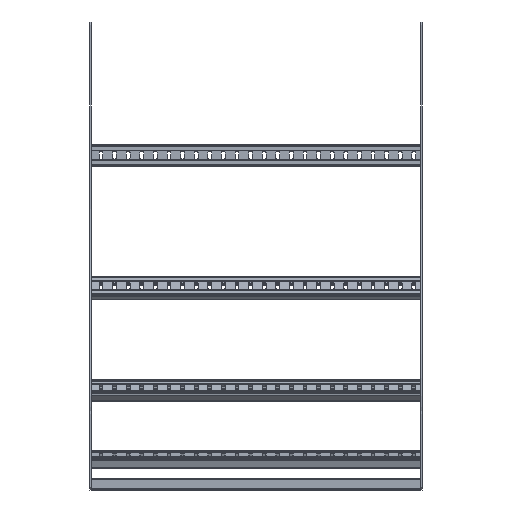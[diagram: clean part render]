
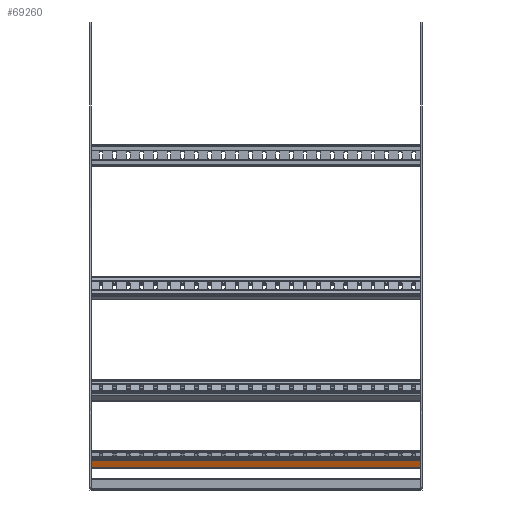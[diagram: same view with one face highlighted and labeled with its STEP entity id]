
A CAD part, front view. The second image highlights one B-rep face of the part: STEP entity #69260.
In plain terms, the highlighted planar face has unit normal (0, -0.924, -0.383) as drawn and (1, 0, 0) by its records, which use the part's own axes.
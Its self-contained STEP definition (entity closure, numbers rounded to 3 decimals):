
#27880=CARTESIAN_POINT('',(39.5,881.5,-202.5));
#27890=VERTEX_POINT('',#27880);
#27920=CARTESIAN_POINT('',(39.5,0.,-202.5));
#27930=DIRECTION('',(0.,-1.,0.));
#27940=VECTOR('',#27930,1.);
#27950=LINE('',#27920,#27940);
#27960=CARTESIAN_POINT('',(39.5,896.5,-202.5));
#27970=VERTEX_POINT('',#27960);
#27980=EDGE_CURVE('',#27970,#27890,#27950,.T.);
#30780=CARTESIAN_POINT('',(39.5,896.5,402.5));
#30790=VERTEX_POINT('',#30780);
#30820=CARTESIAN_POINT('',(39.5,0.,402.5));
#30830=DIRECTION('',(0.,1.,0.));
#30840=VECTOR('',#30830,1.);
#30850=LINE('',#30820,#30840);
#30860=CARTESIAN_POINT('',(39.5,881.5,402.5));
#30870=VERTEX_POINT('',#30860);
#30880=EDGE_CURVE('',#30870,#30790,#30850,.T.);
#69010=CARTESIAN_POINT('',(39.5,881.5,340.));
#69020=DIRECTION('',(0.,0.,1.));
#69030=VECTOR('',#69020,1.);
#69040=LINE('',#69010,#69030);
#69050=EDGE_CURVE('',#27890,#30870,#69040,.T.);
#69100=CARTESIAN_POINT('',(39.5,900.,340.));
#69110=DIRECTION('',(1.,0.,0.));
#69120=DIRECTION('',(0.,-1.,0.));
#69130=AXIS2_PLACEMENT_3D('',#69100,#69110,#69120);
#69140=PLANE('',#69130);
#69150=CARTESIAN_POINT('',(39.5,896.5,40.));
#69160=DIRECTION('',(0.,0.,1.));
#69170=VECTOR('',#69160,1.);
#69180=LINE('',#69150,#69170);
#69190=EDGE_CURVE('',#27970,#30790,#69180,.T.);
#69200=ORIENTED_EDGE('',*,*,#69190,.T.);
#69210=ORIENTED_EDGE('',*,*,#27980,.F.);
#69220=ORIENTED_EDGE('',*,*,#69050,.F.);
#69230=ORIENTED_EDGE('',*,*,#30880,.F.);
#69240=EDGE_LOOP('',(#69230,#69220,#69210,#69200));
#69250=FACE_OUTER_BOUND('',#69240,.T.);
#69260=ADVANCED_FACE('',(#69250),#69140,.T.);
